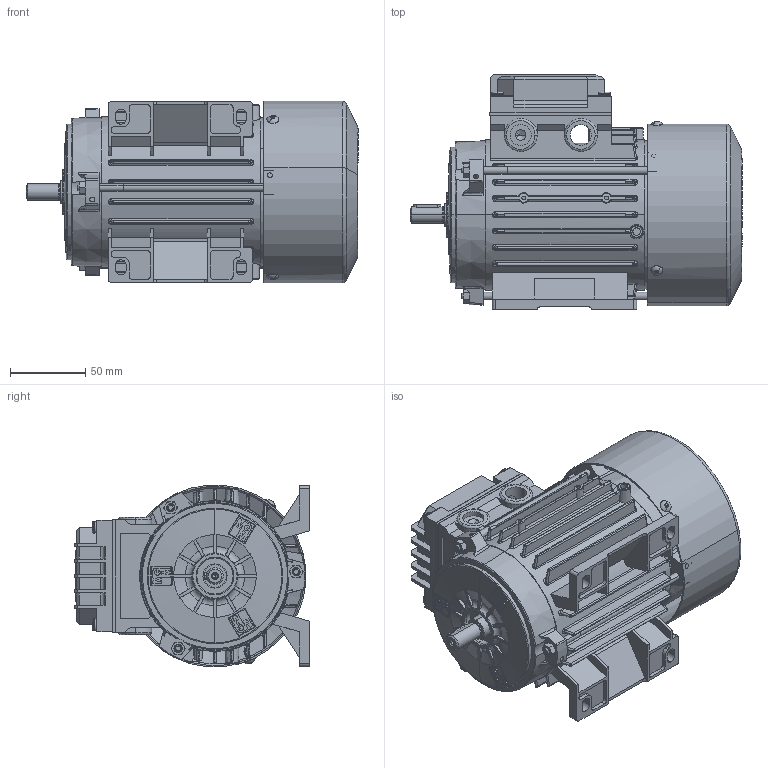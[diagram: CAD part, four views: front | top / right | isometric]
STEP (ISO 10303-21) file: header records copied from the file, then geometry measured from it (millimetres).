
FILE_DESCRIPTION (( 'STEP AP214' ), '1' );
FILE_NAME ('M24BA0011.STEP', '2018-10-25T10:12:19', ( '' ), ( '' ), 'SwSTEP 2.0', 'SolidWorks 2018', '' );
FILE_SCHEMA (( 'AUTOMOTIVE_DESIGN' ));
Length unit declared in the file: millimetre
Products named in the file (13): Albero SM 63 - DAD10095; Carcassa 63 B3; M24BA0011; Coperchio per Scatola Singola 63-71-80 con viti; Guarnizione Scatola Singola 63-71-80; Vite per coperchio morsettiera; Coperchio per Scatola Singola 63-71-80 - DBAN0095; Chiavetta 63; Dado M5; Vite testa rotonda M3; Cuffia SM 63 - DAA40098; Tirante BA SM 63; Scudo Lato Comando B3 BM 63 - DAAD0194
Assembly tree (22 placements, depth 3):
  M24BA0011
    Carcassa 63 B3
    Albero SM 63 - DAD10095
    Scudo Lato Comando B3 BM 63 - DAAD0194  x2
    Tirante BA SM 63  x3
    Cuffia SM 63 - DAA40098
    Vite testa rotonda M3  x3
    Dado M5  x3
    Chiavetta 63
    Coperchio per Scatola Singola 63-71-80 con viti
      Coperchio per Scatola Singola 63-71-80 - DBAN0095
      Vite per coperchio morsettiera  x4
      Guarnizione Scatola Singola 63-71-80
Bounding box: 220.5 x 156.5 x 120.62 mm (x, y, z)
Volume: 482109.3 mm3; surface area: 324342.9 mm2
Topology: 36 solids, 36 shells, 3418 faces, 9198 edges, 5841 vertices
Faces by surface type: plane 1425, cylinder 982, torus 361, cone 288, bspline 266, sphere 96
Entity records: 89442 total; most frequent: CARTESIAN_POINT 29943, ORIENTED_EDGE 13002, DIRECTION 11380, EDGE_CURVE 6501, AXIS2_PLACEMENT_3D 4215, VERTEX_POINT 4155, VECTOR 2950, LINE 2950
